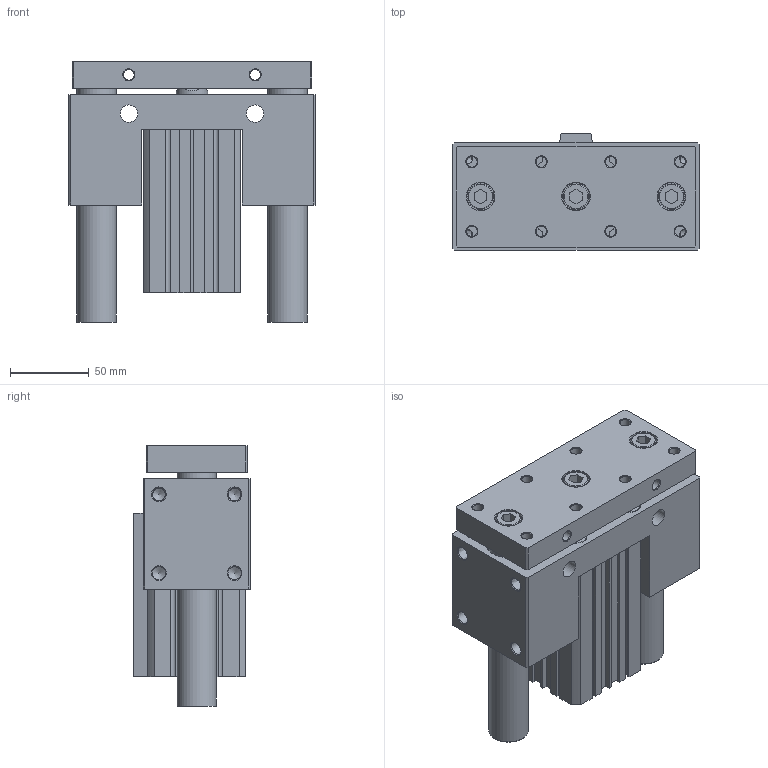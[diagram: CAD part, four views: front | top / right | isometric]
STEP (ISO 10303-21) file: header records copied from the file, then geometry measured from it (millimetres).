
FILE_DESCRIPTION((''),'2;1');
FILE_NAME('I:\3D電子目錄\氣缸\JCB\JCB\JCB50\JCB50x75.stp','2007-08-30T16:26:24',('Administrator'),(''),'Autodesk Inventor 11','Autodesk Inventor 11','');
FILE_SCHEMA(('AUTOMOTIVE_DESIGN { 1 0 10303 214 1 1 1 1 }'));
Length unit declared in the file: millimetre
Products named in the file (1): JCB50
Bounding box: 156 x 74 x 165.5 mm (x, y, z)
Volume: 1076687.9 mm3; surface area: 191184.8 mm2
Topology: 3 solids, 3 shells, 328 faces, 786 edges, 510 vertices
Faces by surface type: plane 190, cylinder 58, cone 45, bspline 31, torus 4
Full cylindrical faces by diameter (mm): 2.7 x2, 6.8 x4, 8.376 x4, 11 x8, 13 x4, 14 x4, 16 x3, 17.5 x3, 20 x1, 21 x1, 25 x2, 28 x2, 37 x1, 38 x1, 52 x4, 55 x2
Entity records: 9390 total; most frequent: CARTESIAN_POINT 2294, DIRECTION 1434, ORIENTED_EDGE 1264, EDGE_CURVE 632, EDGE_LOOP 536, AXIS2_PLACEMENT_3D 512, VERTEX_POINT 480, VECTOR 410
